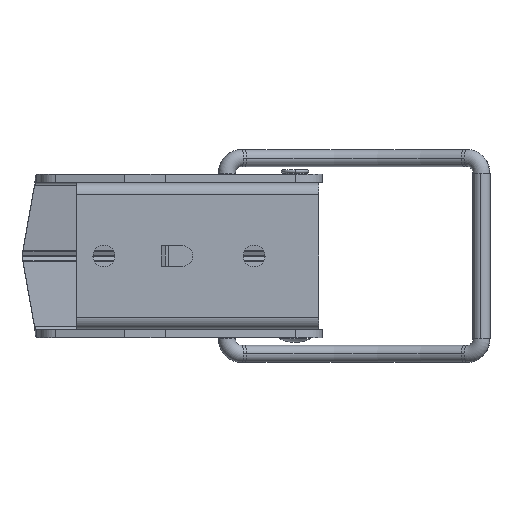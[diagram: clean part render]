
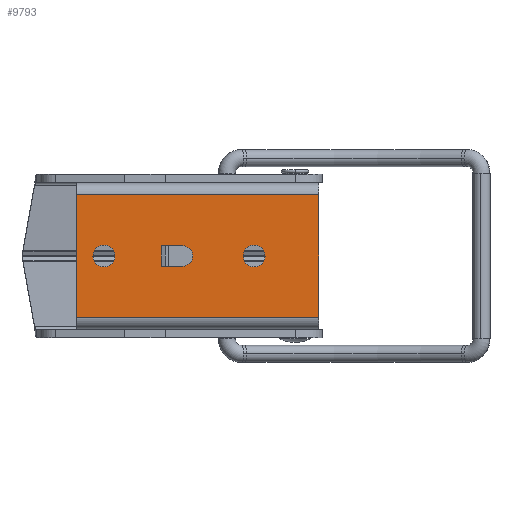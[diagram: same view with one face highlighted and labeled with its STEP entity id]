
A CAD part, front view. The second image highlights one B-rep face of the part: STEP entity #9793.
In plain terms, the highlighted planar face has unit normal (0, -1, 0).
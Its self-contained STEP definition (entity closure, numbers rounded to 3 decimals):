
#135 = DIRECTION ( 'NONE',  ( 0., -1., 0. ) ) ;
#136 = CARTESIAN_POINT ( 'NONE',  ( -20., 0., 0. ) ) ;
#322 = DIRECTION ( 'NONE',  ( 0., 0., 1. ) ) ;
#349 = CARTESIAN_POINT ( 'NONE',  ( -20., 0., 1.5 ) ) ;
#350 = DIRECTION ( 'NONE',  ( 1., 0., 0. ) ) ;
#351 = VECTOR ( 'NONE', #350, 1000. ) ;
#352 = CARTESIAN_POINT ( 'NONE',  ( -22.5, 0., 1.5 ) ) ;
#353 = LINE ( 'NONE', #352, #351 ) ;
#365 = CARTESIAN_POINT ( 'NONE',  ( -23.082, 0., 1.5 ) ) ;
#366 = DIRECTION ( 'NONE',  ( 0., 0., -1. ) ) ;
#367 = VECTOR ( 'NONE', #366, 1000. ) ;
#368 = CARTESIAN_POINT ( 'NONE',  ( -23.082, 0., 1.5 ) ) ;
#369 = LINE ( 'NONE', #368, #367 ) ;
#430 = AXIS2_PLACEMENT_3D ( 'NONE', #136, #135, #322 ) ;
#431 = CIRCLE ( 'NONE', #430, 1.5 ) ;
#2639 = CARTESIAN_POINT ( 'NONE',  ( -9.5, 0., -1.6 ) ) ;
#2640 = CARTESIAN_POINT ( 'NONE',  ( -9.5, 0., 1.6 ) ) ;
#2641 = DIRECTION ( 'NONE',  ( 0., 0., -1. ) ) ;
#2642 = DIRECTION ( 'NONE',  ( 0., 1., 0. ) ) ;
#2643 = CARTESIAN_POINT ( 'NONE',  ( -9.5, 0., 0. ) ) ;
#2644 = AXIS2_PLACEMENT_3D ( 'NONE', #2643, #2642, #2641 ) ;
#2645 = CIRCLE ( 'NONE', #2644, 1.6 ) ;
#2964 = CARTESIAN_POINT ( 'NONE',  ( -31.5, 0., 1.6 ) ) ;
#2972 = CARTESIAN_POINT ( 'NONE',  ( -31.5, 0., -1.6 ) ) ;
#2995 = DIRECTION ( 'NONE',  ( 0., 0., -1. ) ) ;
#2996 = DIRECTION ( 'NONE',  ( 0., 1., 0. ) ) ;
#2997 = CARTESIAN_POINT ( 'NONE',  ( -31.5, 0., 0. ) ) ;
#2998 = AXIS2_PLACEMENT_3D ( 'NONE', #2997, #2996, #2995 ) ;
#2999 = CIRCLE ( 'NONE', #2998, 1.6 ) ;
#6674 = LINE ( 'NONE', #6678, #6677 ) ;
#6676 = DIRECTION ( 'NONE',  ( 1., 0., 0. ) ) ;
#6677 = VECTOR ( 'NONE', #6676, 1000. ) ;
#6678 = CARTESIAN_POINT ( 'NONE',  ( -22.5, 0., -1.5 ) ) ;
#6679 = CARTESIAN_POINT ( 'NONE',  ( -20., 0., -1.5 ) ) ;
#6680 = CARTESIAN_POINT ( 'NONE',  ( -23.082, 0., -1.5 ) ) ;
#8088 = EDGE_CURVE ( 'NONE', #8089, #8090, #2645, .T. ) ;
#8089 = VERTEX_POINT ( 'NONE', #2640 ) ;
#8090 = VERTEX_POINT ( 'NONE', #2639 ) ;
#8118 = EDGE_CURVE ( 'NONE', #8132, #8127, #2999, .T. ) ;
#8127 = VERTEX_POINT ( 'NONE', #2972 ) ;
#8132 = VERTEX_POINT ( 'NONE', #2964 ) ;
#9776 = ORIENTED_EDGE ( 'NONE', *, *, #9777, .F. ) ;
#9777 = EDGE_CURVE ( 'NONE', #9778, #9964, #369, .T. ) ;
#9778 = VERTEX_POINT ( 'NONE', #365 ) ;
#9779 = ORIENTED_EDGE ( 'NONE', *, *, #9780, .T. ) ;
#9780 = EDGE_CURVE ( 'NONE', #9778, #9781, #353, .T. ) ;
#9781 = VERTEX_POINT ( 'NONE', #349 ) ;
#9787 = ORIENTED_EDGE ( 'NONE', *, *, #9788, .F. ) ;
#9788 = EDGE_CURVE ( 'NONE', #9965, #9781, #431, .T. ) ;
#9789 = EDGE_LOOP ( 'NONE', ( #9790, #9821 ) ) ;
#9790 = ORIENTED_EDGE ( 'NONE', *, *, #9791, .T. ) ;
#9791 = EDGE_CURVE ( 'NONE', #8127, #8132, #12019, .T. ) ;
#9793 = ADVANCED_FACE ( 'NONE', ( #10677, #10636, #10635, #10634 ), #10633, .F. ) ;
#9794 = EDGE_LOOP ( 'NONE', ( #9962, #9776, #9779, #9787 ) ) ;
#9799 = ORIENTED_EDGE ( 'NONE', *, *, #8088, .T. ) ;
#9800 = EDGE_LOOP ( 'NONE', ( #9801, #9805, #9827, #9830 ) ) ;
#9801 = ORIENTED_EDGE ( 'NONE', *, *, #9802, .F. ) ;
#9802 = EDGE_CURVE ( 'NONE', #9803, #9804, #10665, .T. ) ;
#9803 = VERTEX_POINT ( 'NONE', #10661 ) ;
#9804 = VERTEX_POINT ( 'NONE', #10692 ) ;
#9805 = ORIENTED_EDGE ( 'NONE', *, *, #9806, .F. ) ;
#9806 = EDGE_CURVE ( 'NONE', #9807, #9803, #10691, .T. ) ;
#9807 = VERTEX_POINT ( 'NONE', #10684 ) ;
#9821 = ORIENTED_EDGE ( 'NONE', *, *, #8118, .T. ) ;
#9822 = EDGE_LOOP ( 'NONE', ( #9823, #9799 ) ) ;
#9823 = ORIENTED_EDGE ( 'NONE', *, *, #9824, .T. ) ;
#9824 = EDGE_CURVE ( 'NONE', #8090, #8089, #11052, .T. ) ;
#9827 = ORIENTED_EDGE ( 'NONE', *, *, #9828, .T. ) ;
#9828 = EDGE_CURVE ( 'NONE', #9807, #9829, #11132, .T. ) ;
#9829 = VERTEX_POINT ( 'NONE', #11106 ) ;
#9830 = ORIENTED_EDGE ( 'NONE', *, *, #9831, .F. ) ;
#9831 = EDGE_CURVE ( 'NONE', #9804, #9829, #11103, .T. ) ;
#9962 = ORIENTED_EDGE ( 'NONE', *, *, #9963, .F. ) ;
#9963 = EDGE_CURVE ( 'NONE', #9964, #9965, #6674, .T. ) ;
#9964 = VERTEX_POINT ( 'NONE', #6680 ) ;
#9965 = VERTEX_POINT ( 'NONE', #6679 ) ;
#10633 = PLANE ( 'NONE',  #10675 ) ;
#10634 = FACE_OUTER_BOUND ( 'NONE', #9800, .T. ) ;
#10635 = FACE_BOUND ( 'NONE', #9822, .T. ) ;
#10636 = FACE_BOUND ( 'NONE', #9789, .T. ) ;
#10661 = CARTESIAN_POINT ( 'NONE',  ( -35.5, 0., 8.95 ) ) ;
#10662 = DIRECTION ( 'NONE',  ( 1., 0., 0. ) ) ;
#10663 = VECTOR ( 'NONE', #10662, 1000. ) ;
#10664 = CARTESIAN_POINT ( 'NONE',  ( 0., 0., 8.95 ) ) ;
#10665 = LINE ( 'NONE', #10664, #10663 ) ;
#10673 = DIRECTION ( 'NONE',  ( 0., 0., -1. ) ) ;
#10674 = DIRECTION ( 'NONE',  ( 0., 1., 0. ) ) ;
#10675 = AXIS2_PLACEMENT_3D ( 'NONE', #10678, #10674, #10673 ) ;
#10677 = FACE_BOUND ( 'NONE', #9794, .T. ) ;
#10678 = CARTESIAN_POINT ( 'NONE',  ( 0., 0., -18.5 ) ) ;
#10684 = CARTESIAN_POINT ( 'NONE',  ( -35.5, 0., -8.95 ) ) ;
#10685 = DIRECTION ( 'NONE',  ( 0., 0., 1. ) ) ;
#10686 = VECTOR ( 'NONE', #10685, 1000. ) ;
#10687 = CARTESIAN_POINT ( 'NONE',  ( -35.5, 0., 18.5 ) ) ;
#10691 = LINE ( 'NONE', #10687, #10686 ) ;
#10692 = CARTESIAN_POINT ( 'NONE',  ( 0., 0., 8.95 ) ) ;
#11031 = DIRECTION ( 'NONE',  ( 0., 0., -1. ) ) ;
#11037 = DIRECTION ( 'NONE',  ( 0., 1., 0. ) ) ;
#11052 = CIRCLE ( 'NONE', #11057, 1.6 ) ;
#11057 = AXIS2_PLACEMENT_3D ( 'NONE', #11063, #11037, #11031 ) ;
#11063 = CARTESIAN_POINT ( 'NONE',  ( -9.5, 0., 0. ) ) ;
#11100 = DIRECTION ( 'NONE',  ( 0., 0., -1. ) ) ;
#11101 = VECTOR ( 'NONE', #11100, 1000. ) ;
#11102 = CARTESIAN_POINT ( 'NONE',  ( 0., 0., 18.5 ) ) ;
#11103 = LINE ( 'NONE', #11102, #11101 ) ;
#11106 = CARTESIAN_POINT ( 'NONE',  ( 0., 0., -8.95 ) ) ;
#11107 = DIRECTION ( 'NONE',  ( 1., 0., 0. ) ) ;
#11108 = VECTOR ( 'NONE', #11107, 1000. ) ;
#11131 = CARTESIAN_POINT ( 'NONE',  ( 0., 0., -8.95 ) ) ;
#11132 = LINE ( 'NONE', #11131, #11108 ) ;
#12014 = DIRECTION ( 'NONE',  ( 0., 0., -1. ) ) ;
#12015 = DIRECTION ( 'NONE',  ( 0., 1., 0. ) ) ;
#12016 = CARTESIAN_POINT ( 'NONE',  ( -31.5, 0., 0. ) ) ;
#12017 = AXIS2_PLACEMENT_3D ( 'NONE', #12016, #12015, #12014 ) ;
#12019 = CIRCLE ( 'NONE', #12017, 1.6 ) ;
